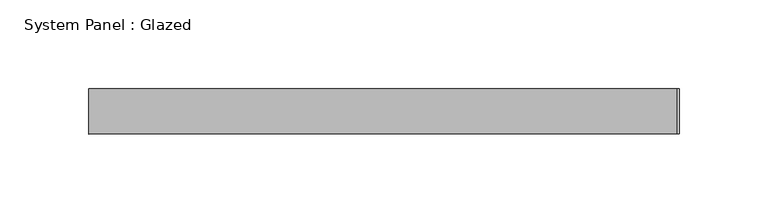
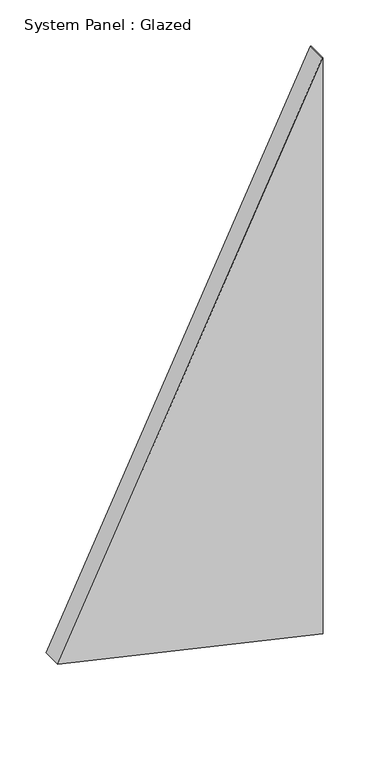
"""IFC4 building model written with IfcOpenShell, lengths in millimetres: plate geometry, System Panel : Glazed."""

from ifc_helpers import new_model, si_unit, frame, origin, place, context, project, spatial, polyline, outline, extrude, source, transform, mapped, element, save


def system_panel_glazed_158996e0(model_context):
    return source(origin(), model_context, "Body", "SweptSolid", [
        extrude(outline(polyline([(76.0939566, -166.3528862), (0.0, 166.3488153), (762.8431207, 166.3528862), (763.0965383, 165.2448816), (76.0939566, -166.3528862)])), frame((0.0, -44.45, 0.0), z_axis=(0.0, 1.0, 0.0), x_axis=(0.0, 0.0, 1.0)), (0.0, 0.0, 1.0), 25.4),
    ])


if __name__ == "__main__":
    model = new_model("IFC4")
    model_context = context("Model", 3, world=origin())
    ifc_project = project(units=[si_unit("LENGTHUNIT", "METRE", prefix="MILLI")], contexts=[model_context])
    site = spatial("IfcSite", under=ifc_project)
    building = spatial("IfcBuilding", under=site)
    placement = place(None, origin())
    system_panel_glazed_shape = system_panel_glazed_158996e0(model_context)
    element("IfcPlate", 1, ObjectType="System Panel : Glazed", at=placement, inside=building, context=model_context, shape_type="MappedRepresentation", body=[
        mapped(system_panel_glazed_shape, transform((0.0, 0.0, 0.0), x_axis=(1.0, 0.0, 0.0), y_axis=(0.0, 1.0, 0.0), z_axis=(0.0, 0.0, 1.0))),
    ])
    save(model, "model.ifc")
